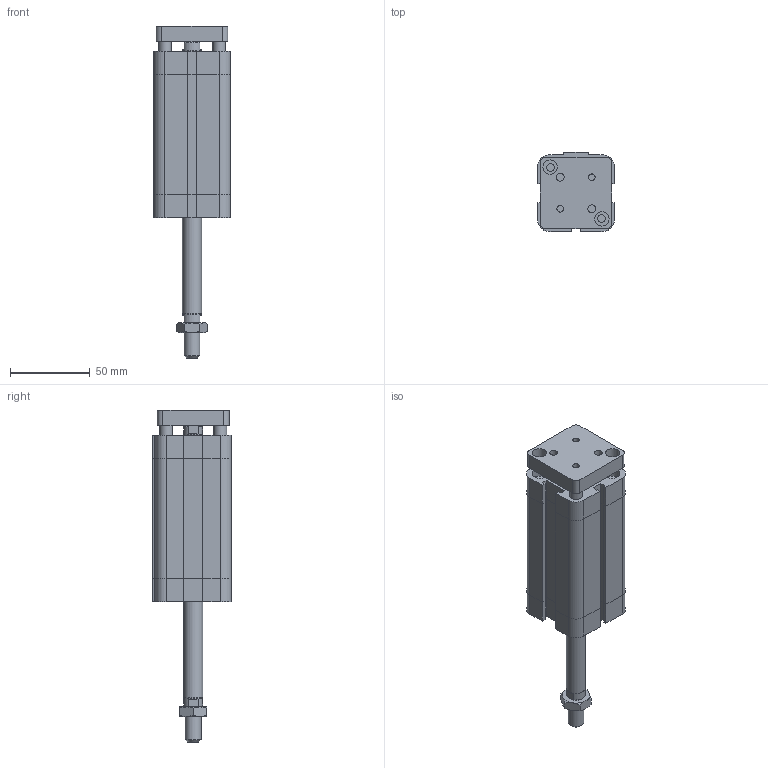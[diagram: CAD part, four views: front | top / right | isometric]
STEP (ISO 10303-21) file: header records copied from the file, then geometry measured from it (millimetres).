
FILE_DESCRIPTION((''),'2;1');
FILE_NAME('I:\Area Tecnica\Disegni\VARIE-3D\Componenti\EUROPE\15##_###_####_09_#\1581_32_0060_09_1.iam.stp','2009-04-20T15:44:54',(''),(''),'Autodesk Inventor 2009','Autodesk Inventor 2009','');
FILE_SCHEMA(('AUTOMOTIVE_DESIGN { 1 0 10303 214 1 1 1 1 }'));
Length unit declared in the file: millimetre
Products named in the file (4): 1581_32_0060_09_1; 1581_32_0060_08_1_C; 1561_32_0060_09_1_SA; DBFM10
Assembly tree (3 placements, depth 2):
  1581_32_0060_09_1
    1581_32_0060_08_1_C
    1561_32_0060_09_1_SA
    DBFM10
Bounding box: 48 x 49.5 x 208.5 mm (x, y, z)
Volume: 249684.9 mm3; surface area: 54654.2 mm2
Topology: 3 solids, 3 shells, 209 faces, 470 edges, 287 vertices
Faces by surface type: plane 120, bspline 45, cylinder 23, cone 21
Full cylindrical faces by diameter (mm): 8 x2, 8.8 x1, 10 x1, 11.7 x2, 12 x1
Entity records: 5963 total; most frequent: CARTESIAN_POINT 1453, DIRECTION 838, ORIENTED_EDGE 834, EDGE_CURVE 417, AXIS2_PLACEMENT_3D 282, EDGE_LOOP 282, VECTOR 274, LINE 274
